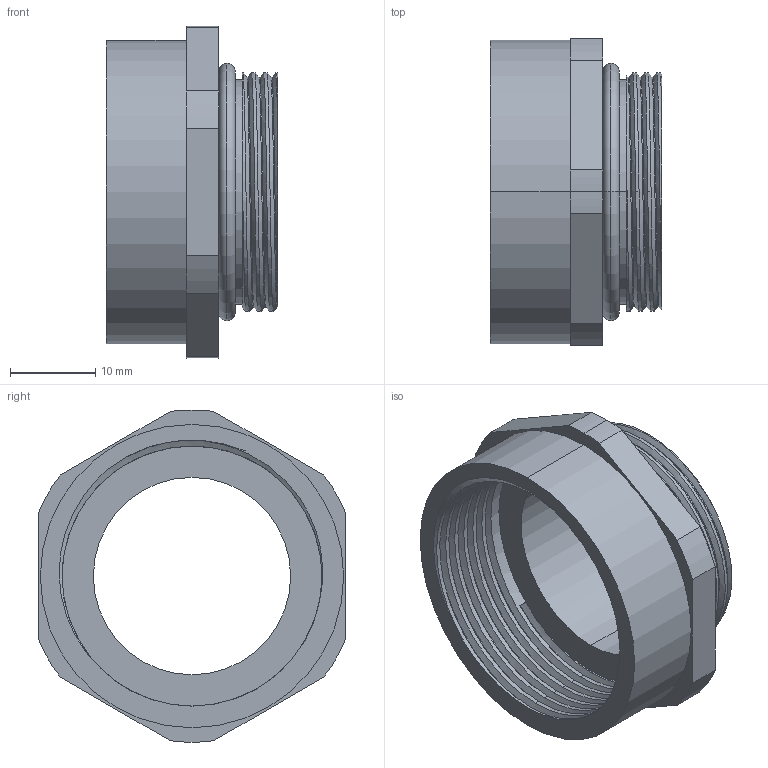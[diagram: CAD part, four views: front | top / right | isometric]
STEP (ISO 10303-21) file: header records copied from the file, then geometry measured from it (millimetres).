
FILE_DESCRIPTION (( 'STEP AP214' ), '1' );
FILE_NAME ('PG21-M32.STEP', '2006-08-15T14:41:21', ( 'Mencom User' ), ( 'Mencom Corporation' ), 'SwSTEP 2.0', 'SolidWorks 2006104', '' );
FILE_SCHEMA (( 'AUTOMOTIVE_DESIGN' ));
Length unit declared in the file: inch
Products named in the file (1): PG21-M32
Bounding box: 20.07 x 35.98 x 38.92 mm (x, y, z)
Volume: 5755.7 mm3; surface area: 6453 mm2
Topology: 2 solids, 2 shells, 62 faces, 161 edges, 106 vertices
Faces by surface type: cylinder 36, plane 14, bspline 6, torus 6
Entity records: 4788 total; most frequent: CARTESIAN_POINT 3305, ORIENTED_EDGE 322, DIRECTION 266, EDGE_CURVE 161, VERTEX_POINT 106, AXIS2_PLACEMENT_3D 105, EDGE_LOOP 69, FACE_OUTER_BOUND 62
